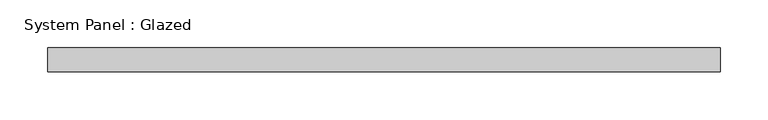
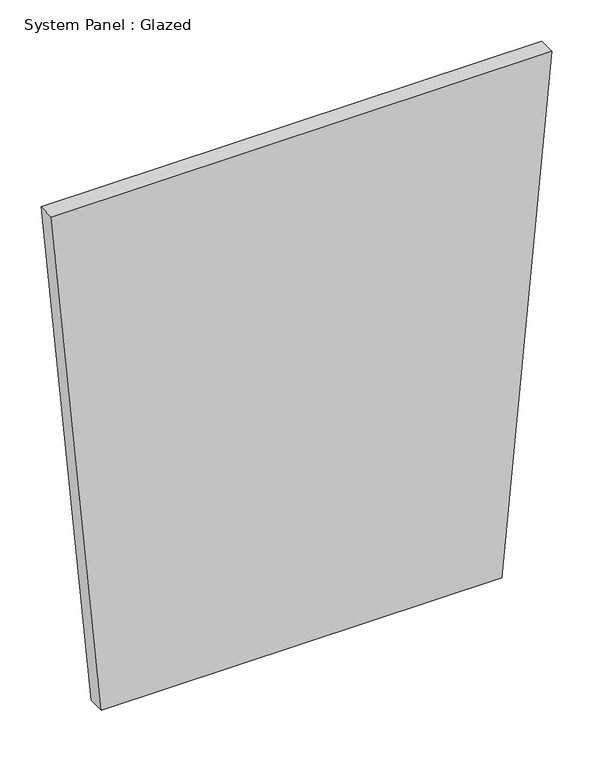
"""IFC4 building model written with IfcOpenShell, lengths in millimetres: plate geometry, System Panel : Glazed."""

from ifc_helpers import new_model, si_unit, frame, origin, place, context, project, spatial, polyline, outline, extrude, source, transform, mapped, element, save


def system_panel_glazed_f45525ea(model_context):
    return source(origin(), model_context, "Body", "SweptSolid", [
        extrude(outline(polyline([(0.0, -281.7876997), (0.0, 281.7876997), (758.7366017, 352.2346246), (758.7366017, -352.2346246), (0.0, -281.7876997)])), frame((0.0, -44.45, 0.0), z_axis=(0.0, 1.0, 0.0), x_axis=(0.0, 0.0, 1.0)), (0.0, 0.0, 1.0), 25.4),
    ])


if __name__ == "__main__":
    model = new_model("IFC4")
    model_context = context("Model", 3, world=origin())
    ifc_project = project(units=[si_unit("LENGTHUNIT", "METRE", prefix="MILLI")], contexts=[model_context])
    site = spatial("IfcSite", under=ifc_project)
    building = spatial("IfcBuilding", under=site)
    placement = place(None, origin())
    system_panel_glazed_shape = system_panel_glazed_f45525ea(model_context)
    element("IfcPlate", 1, ObjectType="System Panel : Glazed", at=placement, inside=building, context=model_context, shape_type="MappedRepresentation", body=[
        mapped(system_panel_glazed_shape, transform((0.0, 0.0, 0.0), x_axis=(1.0, 0.0, 0.0), y_axis=(0.0, 1.0, 0.0), z_axis=(0.0, 0.0, 1.0))),
    ])
    save(model, "model.ifc")
